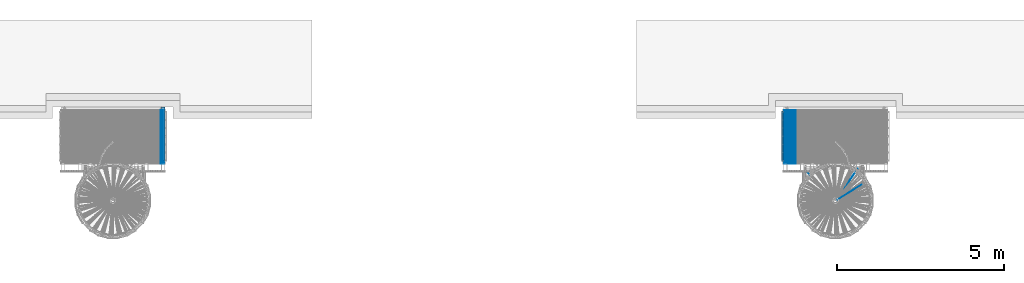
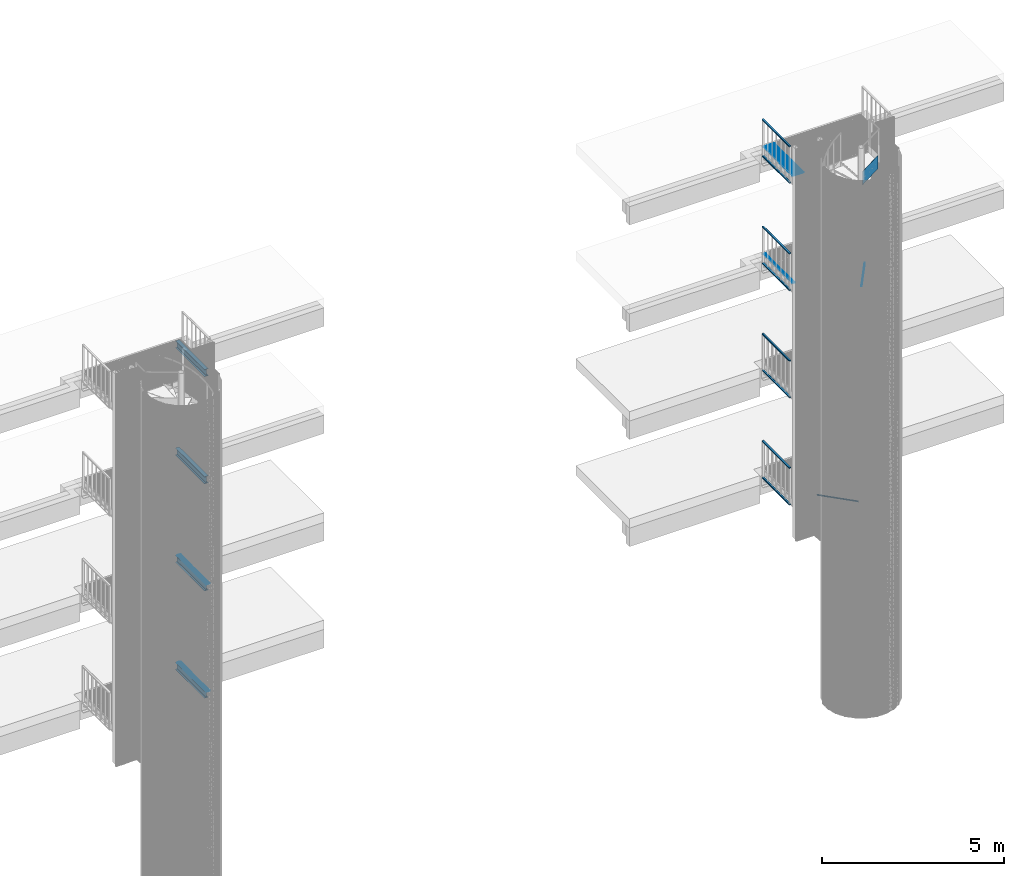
# One storey, part 90 of 1148: 52 beams, 19 elements without a shape of their own.
"""IFC2X3 building model written with IfcOpenShell, lengths in millimetres."""

from ifc_helpers import new_model, si_unit, frame, origin_with_axes, origin_2d_with_axis, place, context, subcontext, project, spatial, rectangle, hollow_rectangle, i_section, extrude, material, type_object, element, aggregate, save


model = new_model("IFC2X3")

# Units and contexts
model_context = context("Model", 3, precision=1e-05, world=origin_with_axes())
body_context = subcontext(model_context, "Body", "Model", "MODEL_VIEW")
ifc_project = project(units=[si_unit("LENGTHUNIT", "METRE", prefix="MILLI"), si_unit("AREAUNIT", "SQUARE_METRE"), si_unit("VOLUMEUNIT", "CUBIC_METRE"), si_unit("MASSUNIT", "GRAM", prefix="KILO"), si_unit("TIMEUNIT", "SECOND"), si_unit("PLANEANGLEUNIT", "RADIAN"), si_unit("SOLIDANGLEUNIT", "STERADIAN"), si_unit("THERMODYNAMICTEMPERATUREUNIT", "DEGREE_CELSIUS"), si_unit("LUMINOUSINTENSITYUNIT", "LUMEN")], contexts=[model_context])

# Site, building, storey
site_placement = place(None, origin_with_axes())
site = spatial("IfcSite", under=ifc_project, at=site_placement, Name="Undefined", CompositionType="ELEMENT")
building_placement = place(site_placement, origin_with_axes())
building = spatial("IfcBuilding", under=site, at=building_placement, Name="Undefined", CompositionType="ELEMENT")
storey_placement = place(building_placement, origin_with_axes())
storey = spatial("IfcBuildingStorey", under=building, at=storey_placement, Name="Undefined", CompositionType="ELEMENT", Elevation=0.0)

# Assembly, beams
assembly_1_placement = place(storey_placement, origin_with_axes())
assembly_1 = element("IfcElementAssembly", 1, at=assembly_1_placement, inside=storey, Name="BORDURE", AssemblyPlace="NOTDEFINED", PredefinedType="NOTDEFINED")
ifc_material = material(Name="STEEL/S235JR")
beam_type_1 = type_object("IfcBeamType", Name="PL2*10", PredefinedType="NOTDEFINED")
beam_1_placement = place(assembly_1_placement, frame((1425.07542471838, 1102.00933287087, 10085.0), z_axis=(0.0, 0.0, 1.0), x_axis=(-4.50599999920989e-06, 0.999999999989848, 0.0)))
beam_1 = element("IfcBeam", 2, at=beam_1_placement, type_object=beam_type_1, material=ifc_material, Name="ENTRETOISE", context=body_context, shape_type="SweptSolid", body=[
    extrude(rectangle(XDim=2.0, YDim=10.0, at=origin_2d_with_axis()), frame((1596.0000000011, -1.35186458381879e-18, -7.27595761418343e-12), z_axis=(-1.0, 0.0, 0.0), x_axis=(0.0, -1.0, 0.0)), (0.0, 0.0, 1.0), 1596.0),
])
beam_2_placement = place(assembly_1_placement, frame((1444.07542471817, 1102.00942638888, 10085.0), z_axis=(0.0, 0.0, 1.0), x_axis=(-4.50599999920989e-06, 0.999999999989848, 0.0)))
beam_2 = element("IfcBeam", 3, at=beam_2_placement, type_object=beam_type_1, material=ifc_material, Name="ENTRETOISE", context=body_context, shape_type="SweptSolid", body=[
    extrude(rectangle(XDim=2.0, YDim=10.0, at=origin_2d_with_axis()), frame((1596.0000000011, -1.35186458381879e-18, -7.27595761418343e-12), z_axis=(-1.0, 0.0, 0.0), x_axis=(0.0, -1.0, 0.0)), (0.0, 0.0, 1.0), 1596.0),
])
beam_3_placement = place(assembly_1_placement, frame((1463.07542471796, 1102.00951990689, 10085.0), z_axis=(0.0, 0.0, 1.0), x_axis=(-4.50599999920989e-06, 0.999999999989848, 0.0)))
beam_3 = element("IfcBeam", 4, at=beam_3_placement, type_object=beam_type_1, material=ifc_material, Name="ENTRETOISE", context=body_context, shape_type="SweptSolid", body=[
    extrude(rectangle(XDim=2.0, YDim=10.0, at=origin_2d_with_axis()), frame((1596.0000000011, -1.35186458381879e-18, -7.27595761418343e-12), z_axis=(-1.0, 0.0, 0.0), x_axis=(0.0, -1.0, 0.0)), (0.0, 0.0, 1.0), 1596.0),
])
beam_4_placement = place(assembly_1_placement, frame((1482.07542471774, 1102.0096134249, 10085.0), z_axis=(0.0, 0.0, 1.0), x_axis=(-4.50599999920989e-06, 0.999999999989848, 0.0)))
beam_4 = element("IfcBeam", 5, at=beam_4_placement, type_object=beam_type_1, material=ifc_material, Name="ENTRETOISE", context=body_context, shape_type="SweptSolid", body=[
    extrude(rectangle(XDim=2.0, YDim=10.0, at=origin_2d_with_axis()), frame((1596.0000000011, -1.35186458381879e-18, -7.27595761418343e-12), z_axis=(-1.0, 0.0, 0.0), x_axis=(0.0, -1.0, 0.0)), (0.0, 0.0, 1.0), 1596.0),
])
beam_5_placement = place(assembly_1_placement, frame((1501.07542471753, 1102.00970694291, 10085.0), z_axis=(0.0, 0.0, 1.0), x_axis=(-4.50599999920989e-06, 0.999999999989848, 0.0)))
beam_5 = element("IfcBeam", 6, at=beam_5_placement, type_object=beam_type_1, material=ifc_material, Name="ENTRETOISE", context=body_context, shape_type="SweptSolid", body=[
    extrude(rectangle(XDim=2.0, YDim=10.0, at=origin_2d_with_axis()), frame((1596.0000000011, -1.35186458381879e-18, -7.27595761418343e-12), z_axis=(-1.0, 0.0, 0.0), x_axis=(0.0, -1.0, 0.0)), (0.0, 0.0, 1.0), 1596.0),
])
beam_6_placement = place(assembly_1_placement, frame((1520.07542471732, 1102.00980046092, 10085.0), z_axis=(0.0, 0.0, 1.0), x_axis=(-4.50599999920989e-06, 0.999999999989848, 0.0)))
beam_6 = element("IfcBeam", 7, at=beam_6_placement, type_object=beam_type_1, material=ifc_material, Name="ENTRETOISE", context=body_context, shape_type="SweptSolid", body=[
    extrude(rectangle(XDim=2.0, YDim=10.0, at=origin_2d_with_axis()), frame((1596.0000000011, -1.35186458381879e-18, -7.27595761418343e-12), z_axis=(-1.0, 0.0, 0.0), x_axis=(0.0, -1.0, 0.0)), (0.0, 0.0, 1.0), 1596.0),
])
beam_7_placement = place(assembly_1_placement, frame((1539.0754247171, 1102.00989397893, 10085.0), z_axis=(0.0, 0.0, 1.0), x_axis=(-4.50599999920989e-06, 0.999999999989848, 0.0)))
beam_7 = element("IfcBeam", 8, at=beam_7_placement, type_object=beam_type_1, material=ifc_material, Name="ENTRETOISE", context=body_context, shape_type="SweptSolid", body=[
    extrude(rectangle(XDim=2.0, YDim=10.0, at=origin_2d_with_axis()), frame((1596.0000000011, -1.35186458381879e-18, -7.27595761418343e-12), z_axis=(-1.0, 0.0, 0.0), x_axis=(0.0, -1.0, 0.0)), (0.0, 0.0, 1.0), 1596.0),
])
aggregate(assembly_1, [beam_1, beam_2, beam_3, beam_4, beam_5, beam_6, beam_7])

assembly_2_placement = place(storey_placement, origin_with_axes())
assembly_2 = element("IfcElementAssembly", 9, at=assembly_2_placement, inside=storey, Name="BORDURE", AssemblyPlace="NOTDEFINED", PredefinedType="NOTDEFINED")
beam_8_placement = place(assembly_2_placement, frame((1425.07542471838, 1102.00933287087, 6485.0), z_axis=(0.0, 0.0, 1.0), x_axis=(-4.50599999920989e-06, 0.999999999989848, 0.0)))
beam_8 = element("IfcBeam", 10, at=beam_8_placement, type_object=beam_type_1, material=ifc_material, Name="ENTRETOISE", context=body_context, shape_type="SweptSolid", body=[
    extrude(rectangle(XDim=2.0, YDim=10.0, at=origin_2d_with_axis()), frame((1596.0000000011, -1.35186458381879e-18, -7.27595761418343e-12), z_axis=(-1.0, 0.0, 0.0), x_axis=(0.0, -1.0, 0.0)), (0.0, 0.0, 1.0), 1596.0),
])
beam_9_placement = place(assembly_2_placement, frame((1444.07542471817, 1102.00942638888, 6485.0), z_axis=(0.0, 0.0, 1.0), x_axis=(-4.50599999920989e-06, 0.999999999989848, 0.0)))
beam_9 = element("IfcBeam", 11, at=beam_9_placement, type_object=beam_type_1, material=ifc_material, Name="ENTRETOISE", context=body_context, shape_type="SweptSolid", body=[
    extrude(rectangle(XDim=2.0, YDim=10.0, at=origin_2d_with_axis()), frame((1596.0000000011, -1.35186458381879e-18, -7.27595761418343e-12), z_axis=(-1.0, 0.0, 0.0), x_axis=(0.0, -1.0, 0.0)), (0.0, 0.0, 1.0), 1596.0),
])
beam_10_placement = place(assembly_2_placement, frame((1463.07542471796, 1102.00951990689, 6485.0), z_axis=(0.0, 0.0, 1.0), x_axis=(-4.50599999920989e-06, 0.999999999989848, 0.0)))
beam_10 = element("IfcBeam", 12, at=beam_10_placement, type_object=beam_type_1, material=ifc_material, Name="ENTRETOISE", context=body_context, shape_type="SweptSolid", body=[
    extrude(rectangle(XDim=2.0, YDim=10.0, at=origin_2d_with_axis()), frame((1596.0000000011, -1.35186458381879e-18, -7.27595761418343e-12), z_axis=(-1.0, 0.0, 0.0), x_axis=(0.0, -1.0, 0.0)), (0.0, 0.0, 1.0), 1596.0),
])
beam_11_placement = place(assembly_2_placement, frame((1482.07542471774, 1102.0096134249, 6485.0), z_axis=(0.0, 0.0, 1.0), x_axis=(-4.50599999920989e-06, 0.999999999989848, 0.0)))
beam_11 = element("IfcBeam", 13, at=beam_11_placement, type_object=beam_type_1, material=ifc_material, Name="ENTRETOISE", context=body_context, shape_type="SweptSolid", body=[
    extrude(rectangle(XDim=2.0, YDim=10.0, at=origin_2d_with_axis()), frame((1596.0000000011, -1.35186458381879e-18, -7.27595761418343e-12), z_axis=(-1.0, 0.0, 0.0), x_axis=(0.0, -1.0, 0.0)), (0.0, 0.0, 1.0), 1596.0),
])
beam_12_placement = place(assembly_2_placement, frame((1501.07542471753, 1102.00970694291, 6485.0), z_axis=(0.0, 0.0, 1.0), x_axis=(-4.50599999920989e-06, 0.999999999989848, 0.0)))
beam_12 = element("IfcBeam", 14, at=beam_12_placement, type_object=beam_type_1, material=ifc_material, Name="ENTRETOISE", context=body_context, shape_type="SweptSolid", body=[
    extrude(rectangle(XDim=2.0, YDim=10.0, at=origin_2d_with_axis()), frame((1596.0000000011, -1.35186458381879e-18, -7.27595761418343e-12), z_axis=(-1.0, 0.0, 0.0), x_axis=(0.0, -1.0, 0.0)), (0.0, 0.0, 1.0), 1596.0),
])
beam_13_placement = place(assembly_2_placement, frame((1520.07542471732, 1102.00980046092, 6485.0), z_axis=(0.0, 0.0, 1.0), x_axis=(-4.50599999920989e-06, 0.999999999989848, 0.0)))
beam_13 = element("IfcBeam", 15, at=beam_13_placement, type_object=beam_type_1, material=ifc_material, Name="ENTRETOISE", context=body_context, shape_type="SweptSolid", body=[
    extrude(rectangle(XDim=2.0, YDim=10.0, at=origin_2d_with_axis()), frame((1596.0000000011, -1.35186458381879e-18, -7.27595761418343e-12), z_axis=(-1.0, 0.0, 0.0), x_axis=(0.0, -1.0, 0.0)), (0.0, 0.0, 1.0), 1596.0),
])
beam_14_placement = place(assembly_2_placement, frame((1539.0754247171, 1102.00989397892, 6485.0), z_axis=(0.0, 0.0, 1.0), x_axis=(-4.50599999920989e-06, 0.999999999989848, 0.0)))
beam_14 = element("IfcBeam", 16, at=beam_14_placement, type_object=beam_type_1, material=ifc_material, Name="ENTRETOISE", context=body_context, shape_type="SweptSolid", body=[
    extrude(rectangle(XDim=2.0, YDim=10.0, at=origin_2d_with_axis()), frame((1596.0000000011, -1.35186458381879e-18, -7.27595761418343e-12), z_axis=(-1.0, 0.0, 0.0), x_axis=(0.0, -1.0, 0.0)), (0.0, 0.0, 1.0), 1596.0),
])
aggregate(assembly_2, [beam_8, beam_9, beam_10, beam_11, beam_12, beam_13, beam_14])

assembly_3_placement = place(storey_placement, origin_with_axes())
assembly_3 = element("IfcElementAssembly", 17, at=assembly_3_placement, inside=storey, Name="BORDURE", AssemblyPlace="NOTDEFINED", PredefinedType="NOTDEFINED")
beam_15_placement = place(assembly_3_placement, frame((20061.115424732, 1101.99474407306, 17285.0), z_axis=(0.0, 0.0, 1.0), x_axis=(-4.50599999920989e-06, 0.999999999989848, 0.0)))
beam_15 = element("IfcBeam", 18, at=beam_15_placement, type_object=beam_type_1, material=ifc_material, Name="ENTRETOISE", context=body_context, shape_type="SweptSolid", body=[
    extrude(rectangle(XDim=2.0, YDim=10.0, at=origin_2d_with_axis()), frame((1596.0000000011, -1.35186458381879e-18, -7.27595761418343e-12), z_axis=(-1.0, 0.0, 0.0), x_axis=(0.0, -1.0, 0.0)), (0.0, 0.0, 1.0), 1596.0),
])
beam_16_placement = place(assembly_3_placement, frame((20080.115424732, 1101.99483759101, 17285.0), z_axis=(0.0, 0.0, 1.0), x_axis=(-4.50599999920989e-06, 0.999999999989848, 0.0)))
beam_16 = element("IfcBeam", 19, at=beam_16_placement, type_object=beam_type_1, material=ifc_material, Name="ENTRETOISE", context=body_context, shape_type="SweptSolid", body=[
    extrude(rectangle(XDim=2.0, YDim=10.0, at=origin_2d_with_axis()), frame((1596.0000000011, -1.35186458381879e-18, -7.27595761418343e-12), z_axis=(-1.0, 0.0, 0.0), x_axis=(0.0, -1.0, 0.0)), (0.0, 0.0, 1.0), 1596.0),
])
beam_17_placement = place(assembly_3_placement, frame((20099.1154247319, 1101.99493110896, 17285.0), z_axis=(0.0, 0.0, 1.0), x_axis=(-4.50599999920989e-06, 0.999999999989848, 0.0)))
beam_17 = element("IfcBeam", 20, at=beam_17_placement, type_object=beam_type_1, material=ifc_material, Name="ENTRETOISE", context=body_context, shape_type="SweptSolid", body=[
    extrude(rectangle(XDim=2.0, YDim=10.0, at=origin_2d_with_axis()), frame((1596.0000000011, -1.35186458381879e-18, -7.27595761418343e-12), z_axis=(-1.0, 0.0, 0.0), x_axis=(0.0, -1.0, 0.0)), (0.0, 0.0, 1.0), 1596.0),
])
beam_18_placement = place(assembly_3_placement, frame((20118.1154247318, 1101.99502462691, 17285.0), z_axis=(0.0, 0.0, 1.0), x_axis=(-4.50599999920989e-06, 0.999999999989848, 0.0)))
beam_18 = element("IfcBeam", 21, at=beam_18_placement, type_object=beam_type_1, material=ifc_material, Name="ENTRETOISE", context=body_context, shape_type="SweptSolid", body=[
    extrude(rectangle(XDim=2.0, YDim=10.0, at=origin_2d_with_axis()), frame((1596.0000000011, -1.35186458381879e-18, -7.27595761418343e-12), z_axis=(-1.0, 0.0, 0.0), x_axis=(0.0, -1.0, 0.0)), (0.0, 0.0, 1.0), 1596.0),
])
beam_19_placement = place(assembly_3_placement, frame((20137.1154247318, 1101.99511814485, 17285.0), z_axis=(0.0, 0.0, 1.0), x_axis=(-4.50599999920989e-06, 0.999999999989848, 0.0)))
beam_19 = element("IfcBeam", 22, at=beam_19_placement, type_object=beam_type_1, material=ifc_material, Name="ENTRETOISE", context=body_context, shape_type="SweptSolid", body=[
    extrude(rectangle(XDim=2.0, YDim=10.0, at=origin_2d_with_axis()), frame((1596.0000000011, -1.35186458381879e-18, -7.27595761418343e-12), z_axis=(-1.0, 0.0, 0.0), x_axis=(0.0, -1.0, 0.0)), (0.0, 0.0, 1.0), 1596.0),
])
beam_20_placement = place(assembly_3_placement, frame((20156.1154247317, 1101.9952116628, 17285.0), z_axis=(0.0, 0.0, 1.0), x_axis=(-4.50599999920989e-06, 0.999999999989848, 0.0)))
beam_20 = element("IfcBeam", 23, at=beam_20_placement, type_object=beam_type_1, material=ifc_material, Name="ENTRETOISE", context=body_context, shape_type="SweptSolid", body=[
    extrude(rectangle(XDim=2.0, YDim=10.0, at=origin_2d_with_axis()), frame((1596.0000000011, -1.35186458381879e-18, -7.27595761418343e-12), z_axis=(-1.0, 0.0, 0.0), x_axis=(0.0, -1.0, 0.0)), (0.0, 0.0, 1.0), 1596.0),
])
beam_21_placement = place(assembly_3_placement, frame((20175.1154247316, 1101.99530518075, 17285.0), z_axis=(0.0, 0.0, 1.0), x_axis=(-4.50599999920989e-06, 0.999999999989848, 0.0)))
beam_21 = element("IfcBeam", 24, at=beam_21_placement, type_object=beam_type_1, material=ifc_material, Name="ENTRETOISE", context=body_context, shape_type="SweptSolid", body=[
    extrude(rectangle(XDim=2.0, YDim=10.0, at=origin_2d_with_axis()), frame((1596.0000000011, -1.35186458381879e-18, -7.27595761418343e-12), z_axis=(-1.0, 0.0, 0.0), x_axis=(0.0, -1.0, 0.0)), (0.0, 0.0, 1.0), 1596.0),
])
beam_22_placement = place(assembly_3_placement, frame((20194.1154247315, 1101.9953986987, 17285.0), z_axis=(0.0, 0.0, 1.0), x_axis=(-4.50599999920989e-06, 0.999999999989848, 0.0)))
beam_22 = element("IfcBeam", 25, at=beam_22_placement, type_object=beam_type_1, material=ifc_material, Name="ENTRETOISE", context=body_context, shape_type="SweptSolid", body=[
    extrude(rectangle(XDim=2.0, YDim=10.0, at=origin_2d_with_axis()), frame((1596.0000000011, -1.35186458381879e-18, -7.27595761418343e-12), z_axis=(-1.0, 0.0, 0.0), x_axis=(0.0, -1.0, 0.0)), (0.0, 0.0, 1.0), 1596.0),
])
beam_23_placement = place(assembly_3_placement, frame((20213.1154247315, 1101.99549221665, 17285.0), z_axis=(0.0, 0.0, 1.0), x_axis=(-4.50599999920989e-06, 0.999999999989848, 0.0)))
beam_23 = element("IfcBeam", 26, at=beam_23_placement, type_object=beam_type_1, material=ifc_material, Name="ENTRETOISE", context=body_context, shape_type="SweptSolid", body=[
    extrude(rectangle(XDim=2.0, YDim=10.0, at=origin_2d_with_axis()), frame((1596.0000000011, -1.35186458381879e-18, -7.27595761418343e-12), z_axis=(-1.0, 0.0, 0.0), x_axis=(0.0, -1.0, 0.0)), (0.0, 0.0, 1.0), 1596.0),
])
beam_24_placement = place(assembly_3_placement, frame((20232.1154247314, 1101.9955857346, 17285.0), z_axis=(0.0, 0.0, 1.0), x_axis=(-4.50599999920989e-06, 0.999999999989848, 0.0)))
beam_24 = element("IfcBeam", 27, at=beam_24_placement, type_object=beam_type_1, material=ifc_material, Name="ENTRETOISE", context=body_context, shape_type="SweptSolid", body=[
    extrude(rectangle(XDim=2.0, YDim=10.0, at=origin_2d_with_axis()), frame((1596.0000000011, -1.35186458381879e-18, -7.27595761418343e-12), z_axis=(-1.0, 0.0, 0.0), x_axis=(0.0, -1.0, 0.0)), (0.0, 0.0, 1.0), 1596.0),
])
beam_25_placement = place(assembly_3_placement, frame((20251.1154247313, 1101.99567925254, 17285.0), z_axis=(0.0, 0.0, 1.0), x_axis=(-4.50599999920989e-06, 0.999999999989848, 0.0)))
beam_25 = element("IfcBeam", 28, at=beam_25_placement, type_object=beam_type_1, material=ifc_material, Name="ENTRETOISE", context=body_context, shape_type="SweptSolid", body=[
    extrude(rectangle(XDim=2.0, YDim=10.0, at=origin_2d_with_axis()), frame((1596.0000000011, -1.35186458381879e-18, -7.27595761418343e-12), z_axis=(-1.0, 0.0, 0.0), x_axis=(0.0, -1.0, 0.0)), (0.0, 0.0, 1.0), 1596.0),
])
beam_26_placement = place(assembly_3_placement, frame((20270.1154247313, 1101.99577277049, 17285.0), z_axis=(0.0, 0.0, 1.0), x_axis=(-4.50599999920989e-06, 0.999999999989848, 0.0)))
beam_26 = element("IfcBeam", 29, at=beam_26_placement, type_object=beam_type_1, material=ifc_material, Name="ENTRETOISE", context=body_context, shape_type="SweptSolid", body=[
    extrude(rectangle(XDim=2.0, YDim=10.0, at=origin_2d_with_axis()), frame((1596.0000000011, -1.35186458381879e-18, -7.27595761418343e-12), z_axis=(-1.0, 0.0, 0.0), x_axis=(0.0, -1.0, 0.0)), (0.0, 0.0, 1.0), 1596.0),
])
beam_27_placement = place(assembly_3_placement, frame((20289.1154247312, 1101.99586628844, 17285.0), z_axis=(0.0, 0.0, 1.0), x_axis=(-4.50599999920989e-06, 0.999999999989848, 0.0)))
beam_27 = element("IfcBeam", 30, at=beam_27_placement, type_object=beam_type_1, material=ifc_material, Name="ENTRETOISE", context=body_context, shape_type="SweptSolid", body=[
    extrude(rectangle(XDim=2.0, YDim=10.0, at=origin_2d_with_axis()), frame((1596.0000000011, -1.35186458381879e-18, -7.27595761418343e-12), z_axis=(-1.0, 0.0, 0.0), x_axis=(0.0, -1.0, 0.0)), (0.0, 0.0, 1.0), 1596.0),
])
beam_28_placement = place(assembly_3_placement, frame((20308.1154247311, 1101.99595980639, 17285.0), z_axis=(0.0, 0.0, 1.0), x_axis=(-4.50599999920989e-06, 0.999999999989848, 0.0)))
beam_28 = element("IfcBeam", 31, at=beam_28_placement, type_object=beam_type_1, material=ifc_material, Name="ENTRETOISE", context=body_context, shape_type="SweptSolid", body=[
    extrude(rectangle(XDim=2.0, YDim=10.0, at=origin_2d_with_axis()), frame((1596.0000000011, -1.35186458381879e-18, -7.27595761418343e-12), z_axis=(-1.0, 0.0, 0.0), x_axis=(0.0, -1.0, 0.0)), (0.0, 0.0, 1.0), 1596.0),
])
beam_29_placement = place(assembly_3_placement, frame((20327.1154247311, 1101.99605332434, 17285.0), z_axis=(0.0, 0.0, 1.0), x_axis=(-4.50599999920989e-06, 0.999999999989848, 0.0)))
beam_29 = element("IfcBeam", 32, at=beam_29_placement, type_object=beam_type_1, material=ifc_material, Name="ENTRETOISE", context=body_context, shape_type="SweptSolid", body=[
    extrude(rectangle(XDim=2.0, YDim=10.0, at=origin_2d_with_axis()), frame((1596.0000000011, -1.35186458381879e-18, -7.27595761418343e-12), z_axis=(-1.0, 0.0, 0.0), x_axis=(0.0, -1.0, 0.0)), (0.0, 0.0, 1.0), 1596.0),
])
beam_30_placement = place(assembly_3_placement, frame((20346.115424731, 1101.99614684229, 17285.0), z_axis=(0.0, 0.0, 1.0), x_axis=(-4.50599999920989e-06, 0.999999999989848, 0.0)))
beam_30 = element("IfcBeam", 33, at=beam_30_placement, type_object=beam_type_1, material=ifc_material, Name="ENTRETOISE", context=body_context, shape_type="SweptSolid", body=[
    extrude(rectangle(XDim=2.0, YDim=10.0, at=origin_2d_with_axis()), frame((1596.0000000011, -1.35186458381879e-18, -7.27595761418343e-12), z_axis=(-1.0, 0.0, 0.0), x_axis=(0.0, -1.0, 0.0)), (0.0, 0.0, 1.0), 1596.0),
])
beam_31_placement = place(assembly_3_placement, frame((20365.1154247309, 1101.99624036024, 17285.0), z_axis=(0.0, 0.0, 1.0), x_axis=(-4.50599999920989e-06, 0.999999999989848, 0.0)))
beam_31 = element("IfcBeam", 34, at=beam_31_placement, type_object=beam_type_1, material=ifc_material, Name="ENTRETOISE", context=body_context, shape_type="SweptSolid", body=[
    extrude(rectangle(XDim=2.0, YDim=10.0, at=origin_2d_with_axis()), frame((1596.0000000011, -1.35186458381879e-18, -7.27595761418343e-12), z_axis=(-1.0, 0.0, 0.0), x_axis=(0.0, -1.0, 0.0)), (0.0, 0.0, 1.0), 1596.0),
])
beam_32_placement = place(assembly_3_placement, frame((20384.1154247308, 1101.99633387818, 17285.0), z_axis=(0.0, 0.0, 1.0), x_axis=(-4.50599999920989e-06, 0.999999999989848, 0.0)))
beam_32 = element("IfcBeam", 35, at=beam_32_placement, type_object=beam_type_1, material=ifc_material, Name="ENTRETOISE", context=body_context, shape_type="SweptSolid", body=[
    extrude(rectangle(XDim=2.0, YDim=10.0, at=origin_2d_with_axis()), frame((1596.0000000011, -1.35186458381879e-18, -7.27595761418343e-12), z_axis=(-1.0, 0.0, 0.0), x_axis=(0.0, -1.0, 0.0)), (0.0, 0.0, 1.0), 1596.0),
])
beam_33_placement = place(assembly_3_placement, frame((20403.1154247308, 1101.99642739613, 17285.0), z_axis=(0.0, 0.0, 1.0), x_axis=(-4.50599999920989e-06, 0.999999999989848, 0.0)))
beam_33 = element("IfcBeam", 36, at=beam_33_placement, type_object=beam_type_1, material=ifc_material, Name="ENTRETOISE", context=body_context, shape_type="SweptSolid", body=[
    extrude(rectangle(XDim=2.0, YDim=10.0, at=origin_2d_with_axis()), frame((1596.0000000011, -1.35186458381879e-18, -7.27595761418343e-12), z_axis=(-1.0, 0.0, 0.0), x_axis=(0.0, -1.0, 0.0)), (0.0, 0.0, 1.0), 1596.0),
])
aggregate(assembly_3, [beam_15, beam_16, beam_17, beam_18, beam_19, beam_20, beam_21, beam_22, beam_23, beam_24, beam_25, beam_26, beam_27, beam_28, beam_29, beam_30, beam_31, beam_32, beam_33])

assembly_4_placement = place(storey_placement, origin_with_axes())
assembly_4 = element("IfcElementAssembly", 37, at=assembly_4_placement, inside=storey, Name="BORDURE", AssemblyPlace="NOTDEFINED", PredefinedType="NOTDEFINED")
beam_34_placement = place(assembly_4_placement, frame((20061.115424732, 1101.99474407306, 13685.0), z_axis=(0.0, 0.0, 1.0), x_axis=(-4.50599999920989e-06, 0.999999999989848, 0.0)))
beam_34 = element("IfcBeam", 38, at=beam_34_placement, type_object=beam_type_1, material=ifc_material, Name="ENTRETOISE", context=body_context, shape_type="SweptSolid", body=[
    extrude(rectangle(XDim=2.0, YDim=10.0, at=origin_2d_with_axis()), frame((1596.0000000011, -1.35186458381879e-18, -7.27595761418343e-12), z_axis=(-1.0, 0.0, 0.0), x_axis=(0.0, -1.0, 0.0)), (0.0, 0.0, 1.0), 1596.0),
])
beam_35_placement = place(assembly_4_placement, frame((20080.115424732, 1101.99483759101, 13685.0), z_axis=(0.0, 0.0, 1.0), x_axis=(-4.50599999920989e-06, 0.999999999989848, 0.0)))
beam_35 = element("IfcBeam", 39, at=beam_35_placement, type_object=beam_type_1, material=ifc_material, Name="ENTRETOISE", context=body_context, shape_type="SweptSolid", body=[
    extrude(rectangle(XDim=2.0, YDim=10.0, at=origin_2d_with_axis()), frame((1596.0000000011, -1.35186458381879e-18, -7.27595761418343e-12), z_axis=(-1.0, 0.0, 0.0), x_axis=(0.0, -1.0, 0.0)), (0.0, 0.0, 1.0), 1596.0),
])
beam_36_placement = place(assembly_4_placement, frame((20099.1154247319, 1101.99493110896, 13685.0), z_axis=(0.0, 0.0, 1.0), x_axis=(-4.50599999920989e-06, 0.999999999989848, 0.0)))
beam_36 = element("IfcBeam", 40, at=beam_36_placement, type_object=beam_type_1, material=ifc_material, Name="ENTRETOISE", context=body_context, shape_type="SweptSolid", body=[
    extrude(rectangle(XDim=2.0, YDim=10.0, at=origin_2d_with_axis()), frame((1596.0000000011, -1.35186458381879e-18, -7.27595761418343e-12), z_axis=(-1.0, 0.0, 0.0), x_axis=(0.0, -1.0, 0.0)), (0.0, 0.0, 1.0), 1596.0),
])
beam_37_placement = place(assembly_4_placement, frame((20118.1154247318, 1101.99502462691, 13685.0), z_axis=(0.0, 0.0, 1.0), x_axis=(-4.50599999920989e-06, 0.999999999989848, 0.0)))
beam_37 = element("IfcBeam", 41, at=beam_37_placement, type_object=beam_type_1, material=ifc_material, Name="ENTRETOISE", context=body_context, shape_type="SweptSolid", body=[
    extrude(rectangle(XDim=2.0, YDim=10.0, at=origin_2d_with_axis()), frame((1596.0000000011, -1.35186458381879e-18, -7.27595761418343e-12), z_axis=(-1.0, 0.0, 0.0), x_axis=(0.0, -1.0, 0.0)), (0.0, 0.0, 1.0), 1596.0),
])
aggregate(assembly_4, [beam_34, beam_35, beam_36, beam_37])

# Assembly, beam
assembly_5_placement = place(storey_placement, origin_with_axes())
assembly_5 = element("IfcElementAssembly", 42, at=assembly_5_placement, inside=storey, Name="RAILING", AssemblyPlace="NOTDEFINED", PredefinedType="NOTDEFINED")
beam_type_2 = type_object("IfcBeamType", Name="TUBE-R-60*40*3", PredefinedType="NOTDEFINED")
beam_38_placement = place(assembly_5_placement, frame((20019.9295654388, 1175.01007484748, 17020.0), z_axis=(0.999999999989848, -4.50599999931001e-06, 0.0), x_axis=(4.50599999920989e-06, 0.999999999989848, 0.0)))
beam_38 = element("IfcBeam", 43, at=beam_38_placement, type_object=beam_type_2, material=ifc_material, Name="RAILING", context=body_context, shape_type="SweptSolid", body=[
    extrude(hollow_rectangle(XDim=40.0, YDim=60.0, WallThickness=3.0, InnerFilletRadius=3.0, OuterFilletRadius=6.0, at=origin_2d_with_axis()), frame((1504.99832798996, 3.63797880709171e-12, -1.27478316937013e-18), z_axis=(-1.0, 0.0, 0.0), x_axis=(0.0, -1.0, 0.0)), (0.0, 0.0, 1.0), 1505.0),
])
aggregate(assembly_5, [beam_38])

assembly_6_placement = place(storey_placement, origin_with_axes())
assembly_6 = element("IfcElementAssembly", 44, at=assembly_6_placement, inside=storey, Name="RAILING", AssemblyPlace="NOTDEFINED", PredefinedType="NOTDEFINED")
beam_39_placement = place(assembly_6_placement, frame((20019.9295654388, 1175.01007484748, 18240.0), z_axis=(0.999999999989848, -4.50599999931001e-06, 0.0), x_axis=(4.50599999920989e-06, 0.999999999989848, 0.0)))
beam_39 = element("IfcBeam", 45, at=beam_39_placement, type_object=beam_type_2, material=ifc_material, Name="RAILING", context=body_context, shape_type="SweptSolid", body=[
    extrude(hollow_rectangle(XDim=40.0, YDim=60.0, WallThickness=3.0, InnerFilletRadius=3.0, OuterFilletRadius=6.0, at=origin_2d_with_axis()), frame((1504.99832798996, 3.63797880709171e-12, -1.27478316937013e-18), z_axis=(-1.0, 0.0, 0.0), x_axis=(0.0, -1.0, 0.0)), (0.0, 0.0, 1.0), 1505.0),
])
aggregate(assembly_6, [beam_39])

assembly_7_placement = place(storey_placement, origin_with_axes())
assembly_7 = element("IfcElementAssembly", 46, at=assembly_7_placement, inside=storey, Name="RAILING", AssemblyPlace="NOTDEFINED", PredefinedType="NOTDEFINED")
beam_40_placement = place(assembly_7_placement, frame((20019.9295654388, 1175.01007484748, 13420.0), z_axis=(0.999999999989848, -4.50599999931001e-06, 0.0), x_axis=(4.50599999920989e-06, 0.999999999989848, 0.0)))
beam_40 = element("IfcBeam", 47, at=beam_40_placement, type_object=beam_type_2, material=ifc_material, Name="RAILING", context=body_context, shape_type="SweptSolid", body=[
    extrude(hollow_rectangle(XDim=40.0, YDim=60.0, WallThickness=3.0, InnerFilletRadius=3.0, OuterFilletRadius=6.0, at=origin_2d_with_axis()), frame((1504.99832798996, 3.63797880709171e-12, -1.27478316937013e-18), z_axis=(-1.0, 0.0, 0.0), x_axis=(0.0, -1.0, 0.0)), (0.0, 0.0, 1.0), 1505.0),
])
aggregate(assembly_7, [beam_40])

assembly_8_placement = place(storey_placement, origin_with_axes())
assembly_8 = element("IfcElementAssembly", 48, at=assembly_8_placement, inside=storey, Name="RAILING", AssemblyPlace="NOTDEFINED", PredefinedType="NOTDEFINED")
beam_41_placement = place(assembly_8_placement, frame((20019.9295654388, 1175.01007484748, 14640.0), z_axis=(0.999999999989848, -4.50599999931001e-06, 0.0), x_axis=(4.50599999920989e-06, 0.999999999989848, 0.0)))
beam_41 = element("IfcBeam", 49, at=beam_41_placement, type_object=beam_type_2, material=ifc_material, Name="RAILING", context=body_context, shape_type="SweptSolid", body=[
    extrude(hollow_rectangle(XDim=40.0, YDim=60.0, WallThickness=3.0, InnerFilletRadius=3.0, OuterFilletRadius=6.0, at=origin_2d_with_axis()), frame((1504.99832798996, 3.63797880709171e-12, -1.27478316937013e-18), z_axis=(-1.0, 0.0, 0.0), x_axis=(0.0, -1.0, 0.0)), (0.0, 0.0, 1.0), 1505.0),
])
aggregate(assembly_8, [beam_41])

assembly_9_placement = place(storey_placement, origin_with_axes())
assembly_9 = element("IfcElementAssembly", 50, at=assembly_9_placement, inside=storey, Name="RAILING", AssemblyPlace="NOTDEFINED", PredefinedType="NOTDEFINED")
beam_42_placement = place(assembly_9_placement, frame((20019.9295654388, 1175.01007484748, 9820.0), z_axis=(0.999999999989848, -4.50599999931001e-06, 0.0), x_axis=(4.50599999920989e-06, 0.999999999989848, 0.0)))
beam_42 = element("IfcBeam", 51, at=beam_42_placement, type_object=beam_type_2, material=ifc_material, Name="RAILING", context=body_context, shape_type="SweptSolid", body=[
    extrude(hollow_rectangle(XDim=40.0, YDim=60.0, WallThickness=3.0, InnerFilletRadius=3.0, OuterFilletRadius=6.0, at=origin_2d_with_axis()), frame((1504.99832798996, 3.63797880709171e-12, -1.27478316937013e-18), z_axis=(-1.0, 0.0, 0.0), x_axis=(0.0, -1.0, 0.0)), (0.0, 0.0, 1.0), 1505.0),
])
aggregate(assembly_9, [beam_42])

assembly_10_placement = place(storey_placement, origin_with_axes())
assembly_10 = element("IfcElementAssembly", 52, at=assembly_10_placement, inside=storey, Name="RAILING", AssemblyPlace="NOTDEFINED", PredefinedType="NOTDEFINED")
beam_43_placement = place(assembly_10_placement, frame((20019.9295654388, 1175.01007484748, 11040.0), z_axis=(0.999999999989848, -4.50599999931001e-06, 0.0), x_axis=(4.50599999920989e-06, 0.999999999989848, 0.0)))
beam_43 = element("IfcBeam", 53, at=beam_43_placement, type_object=beam_type_2, material=ifc_material, Name="RAILING", context=body_context, shape_type="SweptSolid", body=[
    extrude(hollow_rectangle(XDim=40.0, YDim=60.0, WallThickness=3.0, InnerFilletRadius=3.0, OuterFilletRadius=6.0, at=origin_2d_with_axis()), frame((1504.99832798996, 3.63797880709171e-12, -1.27478316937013e-18), z_axis=(-1.0, 0.0, 0.0), x_axis=(0.0, -1.0, 0.0)), (0.0, 0.0, 1.0), 1505.0),
])
aggregate(assembly_10, [beam_43])

assembly_11_placement = place(storey_placement, origin_with_axes())
assembly_11 = element("IfcElementAssembly", 54, at=assembly_11_placement, inside=storey, Name="RAILING", AssemblyPlace="NOTDEFINED", PredefinedType="NOTDEFINED")
beam_44_placement = place(assembly_11_placement, frame((20019.9295654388, 1175.01007484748, 6220.0), z_axis=(0.999999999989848, -4.50599999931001e-06, 0.0), x_axis=(4.50599999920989e-06, 0.999999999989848, 0.0)))
beam_44 = element("IfcBeam", 55, at=beam_44_placement, type_object=beam_type_2, material=ifc_material, Name="RAILING", context=body_context, shape_type="SweptSolid", body=[
    extrude(hollow_rectangle(XDim=40.0, YDim=60.0, WallThickness=3.0, InnerFilletRadius=3.0, OuterFilletRadius=6.0, at=origin_2d_with_axis()), frame((1504.99832798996, 3.63797880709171e-12, -1.27478316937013e-18), z_axis=(-1.0, 0.0, 0.0), x_axis=(0.0, -1.0, 0.0)), (0.0, 0.0, 1.0), 1505.0),
])
aggregate(assembly_11, [beam_44])

assembly_12_placement = place(storey_placement, origin_with_axes())
assembly_12 = element("IfcElementAssembly", 56, at=assembly_12_placement, inside=storey, Name="RAILING", AssemblyPlace="NOTDEFINED", PredefinedType="NOTDEFINED")
beam_45_placement = place(assembly_12_placement, frame((20019.9295654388, 1175.01007484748, 7440.0), z_axis=(0.999999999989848, -4.50599999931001e-06, 0.0), x_axis=(4.50599999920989e-06, 0.999999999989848, 0.0)))
beam_45 = element("IfcBeam", 57, at=beam_45_placement, type_object=beam_type_2, material=ifc_material, Name="RAILING", context=body_context, shape_type="SweptSolid", body=[
    extrude(hollow_rectangle(XDim=40.0, YDim=60.0, WallThickness=3.0, InnerFilletRadius=3.0, OuterFilletRadius=6.0, at=origin_2d_with_axis()), frame((1504.99832798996, 3.63797880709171e-12, -1.27478316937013e-18), z_axis=(-1.0, 0.0, 0.0), x_axis=(0.0, -1.0, 0.0)), (0.0, 0.0, 1.0), 1505.0),
])
aggregate(assembly_12, [beam_45])

assembly_13_placement = place(storey_placement, origin_with_axes())
assembly_13 = element("IfcElementAssembly", 58, at=assembly_13_placement, inside=storey, Name="POTEAU", AssemblyPlace="NOTDEFINED", PredefinedType="NOTDEFINED")
beam_type_3 = type_object("IfcBeamType", Name="PL10*40", PredefinedType="NOTDEFINED")
beam_46_placement = place(assembly_13_placement, frame((21651.6645409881, 66.3066495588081, 13666.0), z_axis=(0.0, 0.0, 1.0), x_axis=(0.566618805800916, 0.823980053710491, 0.0)))
beam_46 = element("IfcBeam", 59, at=beam_46_placement, type_object=beam_type_3, material=ifc_material, Name="RAIDISSEUR", context=body_context, shape_type="SweptSolid", body=[
    extrude(rectangle(XDim=10.0, YDim=40.0, at=origin_2d_with_axis()), frame((1068.32873394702, 0.0, 0.0), z_axis=(-1.0, 0.0, 0.0), x_axis=(0.0, -1.0, 0.0)), (0.0, 0.0, 1.0), 1068.33),
])
aggregate(assembly_13, [beam_46])

assembly_14_placement = place(storey_placement, origin_with_axes())
assembly_14 = element("IfcElementAssembly", 60, at=assembly_14_placement, inside=storey, Name="POTEAU", AssemblyPlace="NOTDEFINED", PredefinedType="NOTDEFINED")
beam_47_placement = place(assembly_14_placement, frame((21537.6046196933, 56.3295884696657, 6465.84000000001), z_axis=(0.0, 0.0, 1.0), x_axis=(-0.701441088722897, 0.712727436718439, 0.0)))
beam_47 = element("IfcBeam", 61, at=beam_47_placement, type_object=beam_type_3, material=ifc_material, Name="RAIDISSEUR", context=body_context, shape_type="SweptSolid", body=[
    extrude(rectangle(XDim=10.0, YDim=40.0, at=origin_2d_with_axis()), frame((1177.56285850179, 0.0, 0.0), z_axis=(-1.0, 0.0, 0.0), x_axis=(0.0, -1.0, 0.0)), (0.0, 0.0, 1.0), 1177.56),
])
aggregate(assembly_14, [beam_47])

assembly_15_placement = place(storey_placement, origin_with_axes())
assembly_15 = element("IfcElementAssembly", 62, at=assembly_15_placement, inside=storey, AssemblyPlace="NOTDEFINED", PredefinedType="NOTDEFINED")
beam_type_4 = type_object("IfcBeamType", Name="PLT4*450", PredefinedType="NOTDEFINED")
beam_48_placement = place(assembly_15_placement, frame((21661.5022689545, 35.4079653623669, 17289.84), z_axis=(0.0, 0.0, 1.0), x_axis=(0.852229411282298, 0.523168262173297, 0.0)))
beam_48 = element("IfcBeam", 63, at=beam_48_placement, type_object=beam_type_4, material=ifc_material, Name="GARDE_PIED", context=body_context, shape_type="SweptSolid", body=[
    extrude(rectangle(XDim=4.0, YDim=450.0, at=origin_2d_with_axis()), frame((903.993020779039, 0.0, 0.0), z_axis=(-1.0, 0.0, 0.0), x_axis=(0.0, -1.0, 0.0)), (0.0, 0.0, 1.0), 903.99),
])
aggregate(assembly_15, [beam_48])

assembly_16_placement = place(storey_placement, origin_with_axes())
assembly_16 = element("IfcElementAssembly", 64, at=assembly_16_placement, inside=storey, AssemblyPlace="NOTDEFINED", PredefinedType="NOTDEFINED")
beam_type_5 = type_object("IfcBeamType", Name="IPE240", PredefinedType="NOTDEFINED")
beam_49_placement = place(assembly_16_placement, frame((1490.07043456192, 1195.00969459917, 17120.0), z_axis=(0.0, 0.0, 1.0), x_axis=(-4.50599999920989e-06, 0.999999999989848, 0.0)))
beam_49 = element("IfcBeam", 65, at=beam_49_placement, type_object=beam_type_5, material=ifc_material, Name="EXISTANTS", context=body_context, shape_type="SweptSolid", body=[
    extrude(i_section(OverallWidth=120.0, OverallDepth=240.0, WebThickness=6.199999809, FlangeThickness=9.800000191, FilletRadius=15.0, at=origin_2d_with_axis()), frame((1604.99832798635, 0.0, 3.63797880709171e-12), z_axis=(-1.0, 0.0, 0.0), x_axis=(0.0, -1.0, 0.0)), (0.0, 0.0, 1.0), 1605.0),
])
aggregate(assembly_16, [beam_49])

assembly_17_placement = place(storey_placement, origin_with_axes())
assembly_17 = element("IfcElementAssembly", 66, at=assembly_17_placement, inside=storey, AssemblyPlace="NOTDEFINED", PredefinedType="NOTDEFINED")
beam_50_placement = place(assembly_17_placement, frame((1490.07043456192, 1195.00969459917, 13520.0), z_axis=(0.0, 0.0, 1.0), x_axis=(-4.50599999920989e-06, 0.999999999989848, 0.0)))
beam_50 = element("IfcBeam", 67, at=beam_50_placement, type_object=beam_type_5, material=ifc_material, Name="EXISTANTS", context=body_context, shape_type="SweptSolid", body=[
    extrude(i_section(OverallWidth=120.0, OverallDepth=240.0, WebThickness=6.199999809, FlangeThickness=9.800000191, FilletRadius=15.0, at=origin_2d_with_axis()), frame((1604.99832798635, 0.0, 3.63797880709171e-12), z_axis=(-1.0, 0.0, 0.0), x_axis=(0.0, -1.0, 0.0)), (0.0, 0.0, 1.0), 1605.0),
])
aggregate(assembly_17, [beam_50])

assembly_18_placement = place(storey_placement, origin_with_axes())
assembly_18 = element("IfcElementAssembly", 68, at=assembly_18_placement, inside=storey, AssemblyPlace="NOTDEFINED", PredefinedType="NOTDEFINED")
beam_51_placement = place(assembly_18_placement, frame((1490.07043456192, 1195.00969459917, 9920.0), z_axis=(0.0, 0.0, 1.0), x_axis=(-4.50599999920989e-06, 0.999999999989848, 0.0)))
beam_51 = element("IfcBeam", 69, at=beam_51_placement, type_object=beam_type_5, material=ifc_material, Name="EXISTANTS", context=body_context, shape_type="SweptSolid", body=[
    extrude(i_section(OverallWidth=120.0, OverallDepth=240.0, WebThickness=6.199999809, FlangeThickness=9.800000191, FilletRadius=15.0, at=origin_2d_with_axis()), frame((1604.99832798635, 0.0, 3.63797880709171e-12), z_axis=(-1.0, 0.0, 0.0), x_axis=(0.0, -1.0, 0.0)), (0.0, 0.0, 1.0), 1605.0),
])
aggregate(assembly_18, [beam_51])

assembly_19_placement = place(storey_placement, origin_with_axes())
assembly_19 = element("IfcElementAssembly", 70, at=assembly_19_placement, inside=storey, AssemblyPlace="NOTDEFINED", PredefinedType="NOTDEFINED")
beam_52_placement = place(assembly_19_placement, frame((1490.07043456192, 1195.00969459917, 6320.0), z_axis=(0.0, 0.0, 1.0), x_axis=(-4.50599999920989e-06, 0.999999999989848, 0.0)))
beam_52 = element("IfcBeam", 71, at=beam_52_placement, type_object=beam_type_5, material=ifc_material, Name="EXISTANTS", context=body_context, shape_type="SweptSolid", body=[
    extrude(i_section(OverallWidth=120.0, OverallDepth=240.0, WebThickness=6.199999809, FlangeThickness=9.800000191, FilletRadius=15.0, at=origin_2d_with_axis()), frame((1604.99832798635, 0.0, 3.63797880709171e-12), z_axis=(-1.0, 0.0, 0.0), x_axis=(0.0, -1.0, 0.0)), (0.0, 0.0, 1.0), 1605.0),
])
aggregate(assembly_19, [beam_52])

save(model, "model.ifc")
